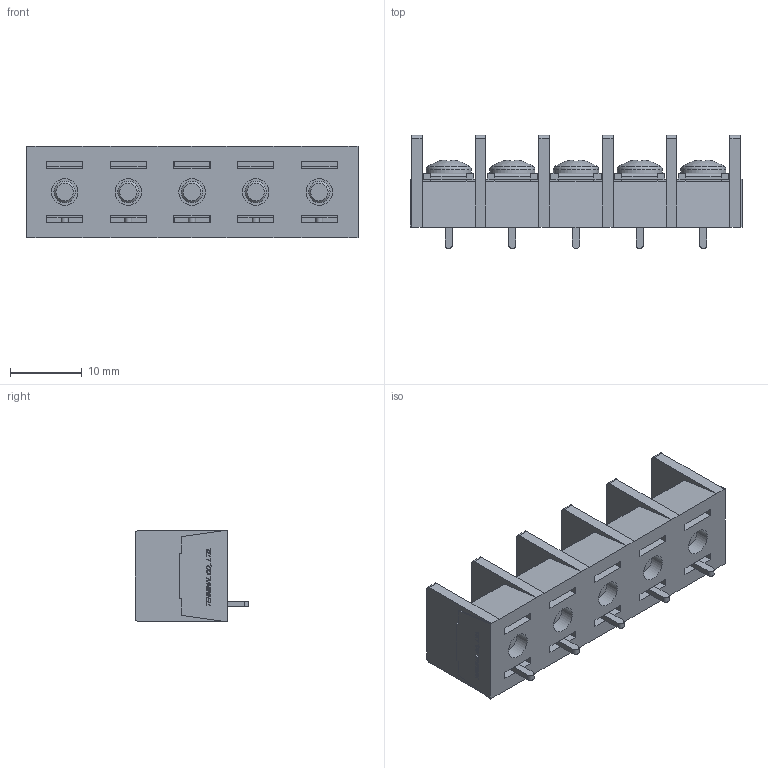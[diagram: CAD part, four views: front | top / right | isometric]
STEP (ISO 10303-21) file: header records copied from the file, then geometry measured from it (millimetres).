
FILE_DESCRIPTION(/* description */ ('Alibre Inc.'),/* implementation_level */ '2;1');
FILE_NAME(/* name */ 'export0',/* time_stamp */ '2015-10-20T19:40:45+09:00',/* author */ (''),/* organization */ (''),/* preprocessor_version */ 'ST-DEVELOPER v14',/* originating_system */ 'Alibre',/* authorisation */ '');
FILE_SCHEMA (('CONFIG_CONTROL_DESIGN'));
Length unit declared in the file: centimetre
Products named in the file (1): ID_1
Bounding box: 46.36 x 15.8 x 12.8 mm (x, y, z)
Volume: 4345.4 mm3; surface area: 5438.8 mm2
Topology: 1 solids, 86 shells, 1795 faces, 4625 edges, 3062 vertices
Faces by surface type: plane 1339, bspline 364, cylinder 52, cone 25, torus 10, sphere 5
Full cylindrical faces by diameter (mm): 3 x10, 3.7 x5, 4.6 x5, 6.3 x5
Entity records: 52016 total; most frequent: CARTESIAN_POINT 12672, ORIENTED_EDGE 9140, DIRECTION 5374, EDGE_CURVE 4570, VECTOR 3531, LINE 3531, VERTEX_POINT 3047, EDGE_LOOP 1965
